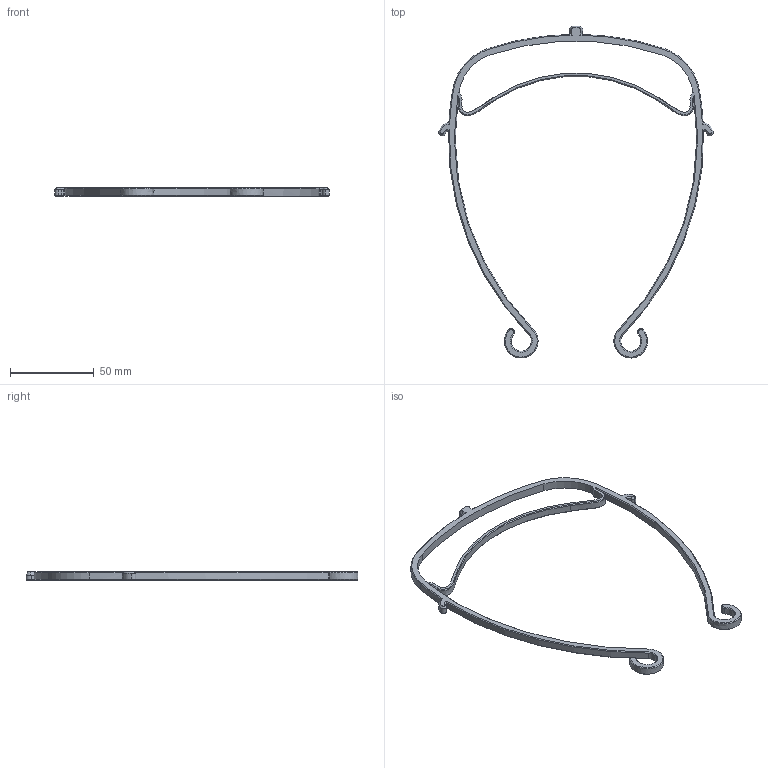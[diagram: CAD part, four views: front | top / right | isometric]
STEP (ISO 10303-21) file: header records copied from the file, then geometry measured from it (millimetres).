
FILE_DESCRIPTION((''),'2;1');
FILE_NAME('NA_LETTER3_EXTENDED_OPEN','2020-04-09T14:33:53',('Jason'),(''),'CREO PARAMETRIC BY PTC INC, 2019224','CREO PARAMETRIC BY PTC INC, 2019224','');
FILE_SCHEMA(('CONFIG_CONTROL_DESIGN'));
Length unit declared in the file: millimetre
Products named in the file (1): NA_LETTER3_EXTENDED_OPEN
Bounding box: 163.5 x 197.96 x 5 mm (x, y, z)
Volume: 13053.9 mm3; surface area: 12144.1 mm2
Topology: 1 solids, 1 shells, 119 faces, 287 edges, 170 vertices
Faces by surface type: cone 49, cylinder 33, plane 17, bspline 12, extrusion 8
Entity records: 5847 total; most frequent: CARTESIAN_POINT 3129, ORIENTED_EDGE 574, DIRECTION 536, EDGE_CURVE 287, AXIS2_PLACEMENT_3D 206, VERTEX_POINT 170, VECTOR 124, EDGE_LOOP 121
